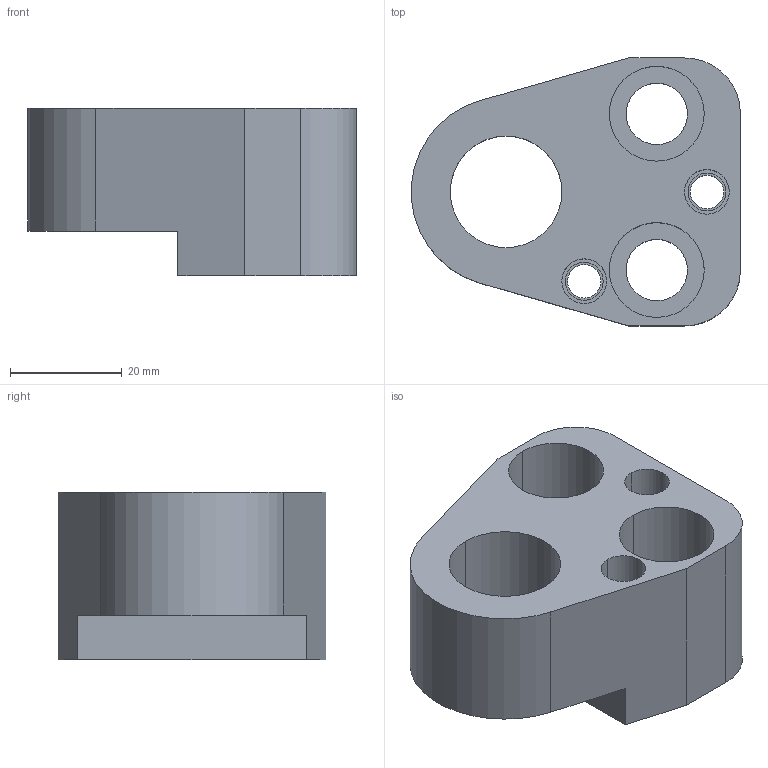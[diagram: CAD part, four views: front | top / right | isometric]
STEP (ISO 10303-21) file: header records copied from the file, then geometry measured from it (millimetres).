
FILE_DESCRIPTION(/* description */ (''),/* implementation_level */ '2;1');
FILE_NAME(/* name */ '3d_ap-fn20_03190_r00.stp',/* time_stamp */ '2011-01-10T14:17:46+09:00',/* author */ ('MISUMI'),/* organization */ (''),/* preprocessor_version */ 'ST-DEVELOPER v11',/* originating_system */ 'UGS - NX 5.0',/* authorisation */ '');
FILE_SCHEMA (('CONFIG_CONTROL_DESIGN'));
Length unit declared in the file: millimetre
Products named in the file (1): 3d_ap-fn20_03190_r00
Bounding box: 58.94 x 48 x 30 mm (x, y, z)
Volume: 43188.7 mm3; surface area: 13840.1 mm2
Topology: 1 solids, 1 shells, 42 faces, 104 edges, 69 vertices
Faces by surface type: cylinder 25, plane 15, cone 2
Entity records: 1382 total; most frequent: DIRECTION 242, CARTESIAN_POINT 221, ORIENTED_EDGE 208, EDGE_CURVE 104, AXIS2_PLACEMENT_3D 96, VERTEX_POINT 69, EDGE_LOOP 57, CIRCLE 53
